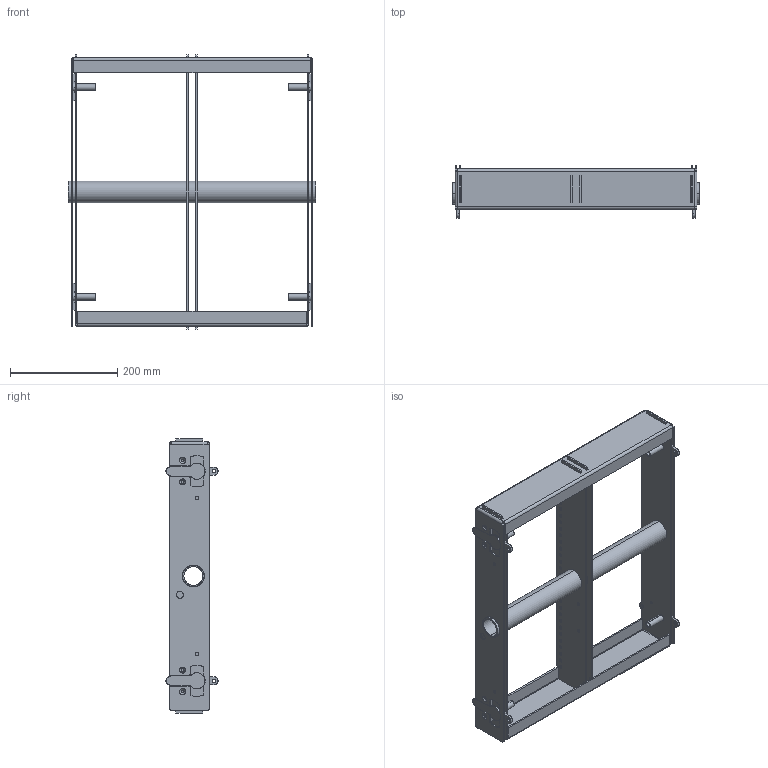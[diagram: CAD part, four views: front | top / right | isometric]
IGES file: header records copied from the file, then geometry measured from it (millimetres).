
Start section: SolidWorks IGES file using analytic representation for surfaces
Global section: file name: C:\Documents and Settings\Administrator\Desktop\Dateien-für-Internet\SEEBURG_Galeo-S_Full-Frame.IGS; native system: SolidWorks 2009; preprocessor: SolidWorks 2009; author: Administrator; date: 160225.102806; units: millimetre
Bounding box: 460 x 97 x 510 mm (x, y, z)
Surface area: 823135.2 mm2 (no closed solid volume)
Topology: 0 solids, 0 shells, 738 faces, 14752 edges, 14744 vertices
Faces by surface type: revolution 436, bspline 302
